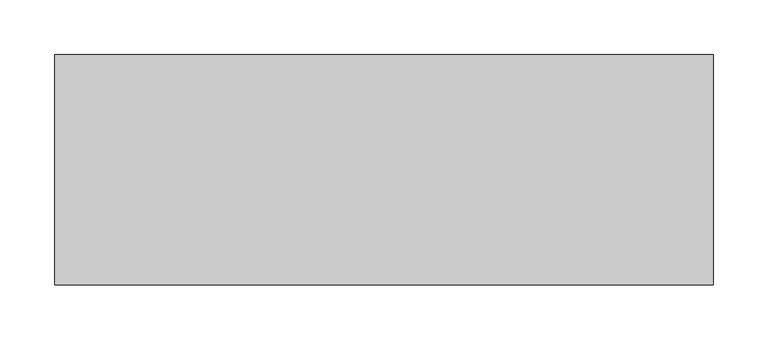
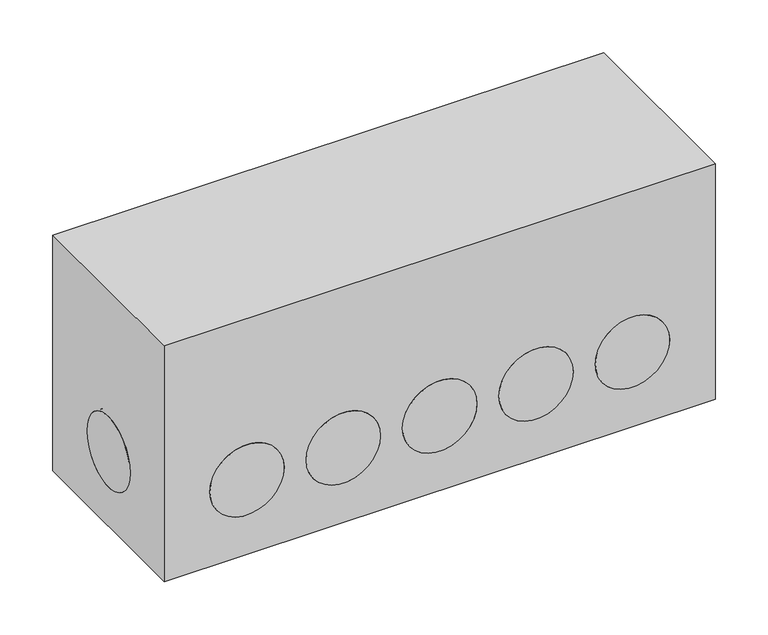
"""IFC4 building model written with IfcOpenShell, lengths in millimetres: duct fitting geometry, NLRS_57_DUF_UN_air distribution manifold 350#12_M&G : 350#12 - DN150 (H=270)."""

from ifc_helpers import new_model, si_unit, point, frame, frame_2d, origin, origin_with_axes, origin_2d, place, context, project, spatial, polyline, circle_curve, trimmed, segment, composite_curve, outline, extrude, source, transform, mapped, element, save
from ifc_brep_helpers import plane_surface, revolved_surface, advanced_brep


def duct_fitting_089aa9a1(model_context):
    return source(origin(), model_context, "Body", "SolidModel", [
        extrude(outline(composite_curve([segment(trimmed(circle_curve(frame_2d((-210.0, 0.0)), 40.5), [point((-250.5, 0.0))], [point((-169.5, 0.0))], False, "CARTESIAN"), True, "CONTINUOUS"), segment(trimmed(circle_curve(frame_2d((-210.0, 0.0)), 40.5), [point((-169.5, 0.0))], [point((-250.5, 0.0))], False, "CARTESIAN"), True, "CONTINUOUS")], self_intersect=False)), origin_with_axes(), (0.0, 0.0, 1.0), 5.0),
        extrude(outline(composite_curve([segment(trimmed(circle_curve(frame_2d((-105.0, 0.0)), 40.5), [point((-145.5, 0.0))], [point((-64.5, 0.0))], False, "CARTESIAN"), True, "CONTINUOUS"), segment(trimmed(circle_curve(frame_2d((-105.0, 0.0)), 40.5), [point((-64.5, 0.0))], [point((-145.5, 0.0))], False, "CARTESIAN"), True, "CONTINUOUS")], self_intersect=False)), origin_with_axes(), (0.0, 0.0, 1.0), 5.0),
        extrude(outline(composite_curve([segment(trimmed(circle_curve(origin_2d(), 40.5), [point((-40.5, 0.0))], [point((40.5, 0.0))], False, "CARTESIAN"), True, "CONTINUOUS"), segment(trimmed(circle_curve(origin_2d(), 40.5), [point((40.5, 0.0))], [point((-40.5, 0.0))], False, "CARTESIAN"), True, "CONTINUOUS")], self_intersect=False)), origin_with_axes(), (0.0, 0.0, 1.0), 5.0),
        extrude(outline(composite_curve([segment(trimmed(circle_curve(frame_2d((105.0, 0.0)), 40.5), [point((64.5, 0.0))], [point((145.5, 0.0))], False, "CARTESIAN"), True, "CONTINUOUS"), segment(trimmed(circle_curve(frame_2d((105.0, 0.0)), 40.5), [point((145.5, 0.0))], [point((64.5, 0.0))], False, "CARTESIAN"), True, "CONTINUOUS")], self_intersect=False)), origin_with_axes(), (0.0, 0.0, 1.0), 5.0),
        extrude(outline(composite_curve([segment(trimmed(circle_curve(frame_2d((210.0, 0.0)), 40.5), [point((169.5, 0.0))], [point((250.5, 0.0))], False, "CARTESIAN"), True, "CONTINUOUS"), segment(trimmed(circle_curve(frame_2d((210.0, 0.0)), 40.5), [point((250.5, 0.0))], [point((169.5, 0.0))], False, "CARTESIAN"), True, "CONTINUOUS")], self_intersect=False)), origin_with_axes(), (0.0, 0.0, 1.0), 5.0),
        extrude(outline(composite_curve([segment(trimmed(circle_curve(frame_2d((0.0, 85.7)), 40.5), [point((-40.5, 85.7))], [point((40.5, 85.7))], False, "CARTESIAN"), True, "CONTINUOUS"), segment(trimmed(circle_curve(frame_2d((0.0, 85.7)), 40.5), [point((40.5, 85.7))], [point((-40.5, 85.7))], False, "CARTESIAN"), True, "CONTINUOUS")], self_intersect=False)), frame((-300.0, 0.0, 0.0), z_axis=(1.0, 0.0, 0.0), x_axis=(0.0, 1.0, 0.0)), (0.0, 0.0, 1.0), 5.0),
        extrude(outline(composite_curve([segment(trimmed(circle_curve(frame_2d((85.7, -210.0)), 40.5), [point((85.7, -169.5))], [point((85.7, -250.5))], False, "CARTESIAN"), True, "CONTINUOUS"), segment(trimmed(circle_curve(frame_2d((85.7, -210.0)), 40.5), [point((85.7, -250.5))], [point((85.7, -169.5))], False, "CARTESIAN"), True, "CONTINUOUS")], self_intersect=False)), frame((0.0, -105.0, 0.0), z_axis=(0.0, 1.0, 0.0), x_axis=(0.0, 0.0, 1.0)), (0.0, 0.0, 1.0), 5.0),
        extrude(outline(composite_curve([segment(trimmed(circle_curve(frame_2d((85.7, -105.0)), 40.5), [point((85.7, -64.5))], [point((85.7, -145.5))], False, "CARTESIAN"), True, "CONTINUOUS"), segment(trimmed(circle_curve(frame_2d((85.7, -105.0)), 40.5), [point((85.7, -145.5))], [point((85.7, -64.5))], False, "CARTESIAN"), True, "CONTINUOUS")], self_intersect=False)), frame((0.0, -105.0, 0.0), z_axis=(0.0, 1.0, 0.0), x_axis=(0.0, 0.0, 1.0)), (0.0, 0.0, 1.0), 5.0),
        extrude(outline(composite_curve([segment(trimmed(circle_curve(frame_2d((85.7, 0.0)), 40.5), [point((85.7, 40.5))], [point((85.7, -40.5))], False, "CARTESIAN"), True, "CONTINUOUS"), segment(trimmed(circle_curve(frame_2d((85.7, 0.0)), 40.5), [point((85.7, -40.5))], [point((85.7, 40.5))], False, "CARTESIAN"), True, "CONTINUOUS")], self_intersect=False)), frame((0.0, -105.0, 0.0), z_axis=(0.0, 1.0, 0.0), x_axis=(0.0, 0.0, 1.0)), (0.0, 0.0, 1.0), 5.0),
        extrude(outline(composite_curve([segment(trimmed(circle_curve(frame_2d((85.7, 105.0)), 40.5), [point((85.7, 145.5))], [point((85.7, 64.5))], False, "CARTESIAN"), True, "CONTINUOUS"), segment(trimmed(circle_curve(frame_2d((85.7, 105.0)), 40.5), [point((85.7, 64.5))], [point((85.7, 145.5))], False, "CARTESIAN"), True, "CONTINUOUS")], self_intersect=False)), frame((0.0, -105.0, 0.0), z_axis=(0.0, 1.0, 0.0), x_axis=(0.0, 0.0, 1.0)), (0.0, 0.0, 1.0), 5.0),
        extrude(outline(composite_curve([segment(trimmed(circle_curve(frame_2d((85.7, 210.0)), 40.5), [point((85.7, 250.5))], [point((85.7, 169.5))], False, "CARTESIAN"), True, "CONTINUOUS"), segment(trimmed(circle_curve(frame_2d((85.7, 210.0)), 40.5), [point((85.7, 169.5))], [point((85.7, 250.5))], False, "CARTESIAN"), True, "CONTINUOUS")], self_intersect=False)), frame((0.0, -105.0, 0.0), z_axis=(0.0, 1.0, 0.0), x_axis=(0.0, 0.0, 1.0)), (0.0, 0.0, 1.0), 5.0),
        extrude(outline(composite_curve([segment(trimmed(circle_curve(frame_2d((0.0, 85.7)), 40.5), [point((-40.5, 85.7))], [point((40.5, 85.7))], False, "CARTESIAN"), True, "CONTINUOUS"), segment(trimmed(circle_curve(frame_2d((0.0, 85.7)), 40.5), [point((40.5, 85.7))], [point((-40.5, 85.7))], False, "CARTESIAN"), True, "CONTINUOUS")], self_intersect=False)), frame((295.0, 0.0, 0.0), z_axis=(1.0, 0.0, 0.0), x_axis=(0.0, 1.0, 0.0)), (0.0, 0.0, 1.0), 5.0),
        advanced_brep(
        [(300.0, 105.0, 271.4), (-300.0, 105.0, 271.4), (-300.0, -105.0, 271.4), (300.0, -105.0, 271.4), (300.0, 105.0, 0.0), (300.0, -105.0, 0.0), (-300.0, -105.0, 0.0), (-300.0, 105.0, 0.0), (-250.5, 0.0, 0.0), (-169.5, 0.0, 0.0), (-145.5, 0.0, 0.0), (-64.5, 0.0, 0.0), (-40.5, 0.0, 0.0), (40.5, 0.0, 0.0), (64.5, 0.0, 0.0), (145.5, 0.0, 0.0), (169.5, 0.0, 0.0), (250.5, 0.0, 0.0), (-300.0, -40.5, 85.7), (-300.0, 40.5, 85.7), (-169.5, -105.0, 85.7), (-250.5, -105.0, 85.7), (-64.5, -105.0, 85.7), (-145.5, -105.0, 85.7), (40.5, -105.0, 85.7), (-40.5, -105.0, 85.7), (145.5, -105.0, 85.7), (64.5, -105.0, 85.7), (250.5, -105.0, 85.7), (169.5, -105.0, 85.7), (300.0, 40.5, 85.7), (300.0, -40.5, 85.7), (-250.5, 0.0, 5.0), (-169.5, 0.0, 5.0), (-145.5, 0.0, 5.0), (-64.5, 0.0, 5.0), (-40.5, 0.0, 5.0), (40.5, 0.0, 5.0), (64.5, 0.0, 5.0), (145.5, 0.0, 5.0), (169.5, 0.0, 5.0), (250.5, 0.0, 5.0), (-250.5, -100.0, 85.7), (-169.5, -100.0, 85.7), (-145.5, -100.0, 85.7), (-64.5, -100.0, 85.7), (-40.5, -100.0, 85.7), (40.5, -100.0, 85.7), (64.5, -100.0, 85.7), (145.5, -100.0, 85.7), (169.5, -100.0, 85.7), (250.5, -100.0, 85.7), (294.0, 40.5, 85.7), (294.0, -40.5, 85.7), (-294.0, -40.5, 85.7), (-294.0, 40.5, 85.7)],
        [
            (0, 1),
            (1, 2),
            (2, 3),
            (3, 0),
            (4, 5),
            (5, 6),
            (6, 7),
            (7, 4),
            (8, 9, circle_curve(frame((-210.0, 0.0, 0.0), z_axis=(0.0, 0.0, 1.0), x_axis=(1.0, 0.0, 0.0)), 40.5)),
            (9, 8, circle_curve(frame((-210.0, 0.0, 0.0), z_axis=(0.0, 0.0, 1.0), x_axis=(1.0, 0.0, 0.0)), 40.5)),
            (10, 11, circle_curve(frame((-105.0, 0.0, 0.0), z_axis=(0.0, 0.0, 1.0), x_axis=(1.0, 0.0, 0.0)), 40.5)),
            (11, 10, circle_curve(frame((-105.0, 0.0, 0.0), z_axis=(0.0, 0.0, 1.0), x_axis=(1.0, 0.0, 0.0)), 40.5)),
            (12, 13, circle_curve(origin_with_axes(), 40.5)),
            (13, 12, circle_curve(origin_with_axes(), 40.5)),
            (14, 15, circle_curve(frame((105.0, 0.0, 0.0), z_axis=(0.0, 0.0, 1.0), x_axis=(1.0, 0.0, 0.0)), 40.5)),
            (15, 14, circle_curve(frame((105.0, 0.0, 0.0), z_axis=(0.0, 0.0, 1.0), x_axis=(1.0, 0.0, 0.0)), 40.5)),
            (16, 17, circle_curve(frame((210.0, 0.0, 0.0), z_axis=(0.0, 0.0, 1.0), x_axis=(1.0, 0.0, 0.0)), 40.5)),
            (17, 16, circle_curve(frame((210.0, 0.0, 0.0), z_axis=(0.0, 0.0, 1.0), x_axis=(1.0, 0.0, 0.0)), 40.5)),
            (0, 4),
            (7, 1),
            (6, 2),
            (18, 19, circle_curve(frame((-300.0, 0.0, 85.7), z_axis=(1.0, 0.0, 0.0), x_axis=(0.0, 1.0, 0.0)), 40.5)),
            (19, 18, circle_curve(frame((-300.0, 0.0, 85.7), z_axis=(1.0, 0.0, 0.0), x_axis=(0.0, 1.0, 0.0)), 40.5)),
            (5, 3),
            (20, 21, circle_curve(frame((-210.0, -105.0, 85.7), z_axis=(0.0, 1.0, 0.0), x_axis=(1.0, 0.0, 0.0)), 40.5)),
            (21, 20, circle_curve(frame((-210.0, -105.0, 85.7), z_axis=(0.0, 1.0, 0.0), x_axis=(1.0, 0.0, 0.0)), 40.5)),
            (22, 23, circle_curve(frame((-105.0, -105.0, 85.7), z_axis=(0.0, 1.0, 0.0), x_axis=(1.0, 0.0, 0.0)), 40.5)),
            (23, 22, circle_curve(frame((-105.0, -105.0, 85.7), z_axis=(0.0, 1.0, 0.0), x_axis=(1.0, 0.0, 0.0)), 40.5)),
            (24, 25, circle_curve(frame((0.0, -105.0, 85.7), z_axis=(0.0, 1.0, 0.0), x_axis=(1.0, 0.0, 0.0)), 40.5)),
            (25, 24, circle_curve(frame((0.0, -105.0, 85.7), z_axis=(0.0, 1.0, 0.0), x_axis=(1.0, 0.0, 0.0)), 40.5)),
            (26, 27, circle_curve(frame((105.0, -105.0, 85.7), z_axis=(0.0, 1.0, 0.0), x_axis=(1.0, 0.0, 0.0)), 40.5)),
            (27, 26, circle_curve(frame((105.0, -105.0, 85.7), z_axis=(0.0, 1.0, 0.0), x_axis=(1.0, 0.0, 0.0)), 40.5)),
            (28, 29, circle_curve(frame((210.0, -105.0, 85.7), z_axis=(0.0, 1.0, 0.0), x_axis=(1.0, 0.0, 0.0)), 40.5)),
            (29, 28, circle_curve(frame((210.0, -105.0, 85.7), z_axis=(0.0, 1.0, 0.0), x_axis=(1.0, 0.0, 0.0)), 40.5)),
            (30, 31, circle_curve(frame((300.0, 0.0, 85.7), z_axis=(-1.0, 0.0, 0.0), x_axis=(0.0, 1.0, 0.0)), 40.5)),
            (31, 30, circle_curve(frame((300.0, 0.0, 85.7), z_axis=(-1.0, 0.0, 0.0), x_axis=(0.0, 1.0, 0.0)), 40.5)),
            (32, 33, circle_curve(frame((-210.0, 0.0, 5.0), z_axis=(0.0, 0.0, -1.0), x_axis=(1.0, 0.0, 0.0)), 40.5)),
            (33, 32, circle_curve(frame((-210.0, 0.0, 5.0), z_axis=(0.0, 0.0, -1.0), x_axis=(1.0, 0.0, 0.0)), 40.5)),
            (34, 35, circle_curve(frame((-105.0, 0.0, 5.0), z_axis=(0.0, 0.0, -1.0), x_axis=(1.0, 0.0, 0.0)), 40.5)),
            (35, 34, circle_curve(frame((-105.0, 0.0, 5.0), z_axis=(0.0, 0.0, -1.0), x_axis=(1.0, 0.0, 0.0)), 40.5)),
            (36, 37, circle_curve(frame((0.0, 0.0, 5.0), z_axis=(0.0, 0.0, -1.0), x_axis=(1.0, 0.0, 0.0)), 40.5)),
            (37, 36, circle_curve(frame((0.0, 0.0, 5.0), z_axis=(0.0, 0.0, -1.0), x_axis=(1.0, 0.0, 0.0)), 40.5)),
            (38, 39, circle_curve(frame((105.0, 0.0, 5.0), z_axis=(0.0, 0.0, -1.0), x_axis=(1.0, 0.0, 0.0)), 40.5)),
            (39, 38, circle_curve(frame((105.0, 0.0, 5.0), z_axis=(0.0, 0.0, -1.0), x_axis=(1.0, 0.0, 0.0)), 40.5)),
            (40, 41, circle_curve(frame((210.0, 0.0, 5.0), z_axis=(0.0, 0.0, -1.0), x_axis=(1.0, 0.0, 0.0)), 40.5)),
            (41, 40, circle_curve(frame((210.0, 0.0, 5.0), z_axis=(0.0, 0.0, -1.0), x_axis=(1.0, 0.0, 0.0)), 40.5)),
            (33, 9),
            (8, 32),
            (35, 11),
            (10, 34),
            (37, 13),
            (12, 36),
            (39, 15),
            (14, 38),
            (41, 17),
            (16, 40),
            (42, 43, circle_curve(frame((-210.0, -100.0, 85.7), z_axis=(0.0, -1.0, 0.0), x_axis=(1.0, 0.0, 0.0)), 40.5)),
            (43, 42, circle_curve(frame((-210.0, -100.0, 85.7), z_axis=(0.0, -1.0, 0.0), x_axis=(1.0, 0.0, 0.0)), 40.5)),
            (44, 45, circle_curve(frame((-105.0, -100.0, 85.7), z_axis=(0.0, -1.0, 0.0), x_axis=(1.0, 0.0, 0.0)), 40.5)),
            (45, 44, circle_curve(frame((-105.0, -100.0, 85.7), z_axis=(0.0, -1.0, 0.0), x_axis=(1.0, 0.0, 0.0)), 40.5)),
            (46, 47, circle_curve(frame((0.0, -100.0, 85.7), z_axis=(0.0, -1.0, 0.0), x_axis=(1.0, 0.0, 0.0)), 40.5)),
            (47, 46, circle_curve(frame((0.0, -100.0, 85.7), z_axis=(0.0, -1.0, 0.0), x_axis=(1.0, 0.0, 0.0)), 40.5)),
            (48, 49, circle_curve(frame((105.0, -100.0, 85.7), z_axis=(0.0, -1.0, 0.0), x_axis=(1.0, 0.0, 0.0)), 40.5)),
            (49, 48, circle_curve(frame((105.0, -100.0, 85.7), z_axis=(0.0, -1.0, 0.0), x_axis=(1.0, 0.0, 0.0)), 40.5)),
            (50, 51, circle_curve(frame((210.0, -100.0, 85.7), z_axis=(0.0, -1.0, 0.0), x_axis=(1.0, 0.0, 0.0)), 40.5)),
            (51, 50, circle_curve(frame((210.0, -100.0, 85.7), z_axis=(0.0, -1.0, 0.0), x_axis=(1.0, 0.0, 0.0)), 40.5)),
            (42, 21),
            (20, 43),
            (44, 23),
            (22, 45),
            (46, 25),
            (24, 47),
            (48, 27),
            (26, 49),
            (50, 29),
            (28, 51),
            (52, 53, circle_curve(frame((294.0, 0.0, 85.7), z_axis=(-1.0, 0.0, 0.0), x_axis=(0.0, 1.0, 0.0)), 40.5)),
            (53, 31),
            (30, 52),
            (53, 52, circle_curve(frame((294.0, 0.0, 85.7), z_axis=(-1.0, 0.0, 0.0), x_axis=(0.0, 1.0, 0.0)), 40.5)),
            (54, 55, circle_curve(frame((-294.0, 0.0, 85.7), z_axis=(-1.0, 0.0, 0.0), x_axis=(0.0, 1.0, 0.0)), 40.5)),
            (55, 54, circle_curve(frame((-294.0, 0.0, 85.7), z_axis=(-1.0, 0.0, 0.0), x_axis=(0.0, 1.0, 0.0)), 40.5)),
            (55, 19),
            (18, 54),
        ],
        [
            plane_surface(frame((-300.0, 105.0, 271.4), z_axis=(0.0, 0.0, 1.0), x_axis=(-1.0, 0.0, 0.0))),
            plane_surface(frame((-300.0, 105.0, 0.0), z_axis=(0.0, 0.0, -1.0), x_axis=(1.0, 0.0, 0.0))),
            plane_surface(frame((300.0, 105.0, 271.4), z_axis=(0.0, 1.0, 0.0), x_axis=(0.0, 0.0, -1.0))),
            plane_surface(frame((-300.0, 105.0, 271.4), z_axis=(-1.0, 0.0, 0.0), x_axis=(0.0, 0.0, -1.0))),
            plane_surface(frame((-300.0, -105.0, 271.4), z_axis=(0.0, -1.0, 0.0), x_axis=(0.0, 0.0, -1.0))),
            plane_surface(frame((300.0, -105.0, 271.4), z_axis=(1.0, 0.0, 0.0), x_axis=(0.0, 0.0, -1.0))),
            plane_surface(frame((-169.5, 0.0, 5.0), z_axis=(0.0, 0.0, -1.0), x_axis=(0.0, 1.0, 0.0))),
            revolved_surface(polyline([(-169.5, 0.0, 5.0), (-169.5, 0.0, 0.0)]), (-210.0, 0.0, 0.0), (0.0, 0.0, 1.0)),
            revolved_surface(polyline([(-64.5, 0.0, 5.0), (-64.5, 0.0, 0.0)]), (-105.0, 0.0, 0.0), (0.0, 0.0, 1.0)),
            revolved_surface(polyline([(40.5, 0.0, 5.0), (40.5, 0.0, 0.0)]), (0.0, 0.0, 0.0), (0.0, 0.0, 1.0)),
            revolved_surface(polyline([(145.5, 0.0, 5.0), (145.5, 0.0, 0.0)]), (105.0, 0.0, 0.0), (0.0, 0.0, 1.0)),
            revolved_surface(polyline([(250.5, 0.0, 5.0), (250.5, 0.0, 0.0)]), (210.0, 0.0, 0.0), (0.0, 0.0, 1.0)),
            plane_surface(frame((-169.5, -100.0, 85.7), z_axis=(0.0, -1.0, 0.0), x_axis=(0.0, 0.0, -1.0))),
            revolved_surface(polyline([(-169.5, -105.0, 85.7), (-169.5, -100.0, 85.7)]), (-210.0, -100.0, 85.7), (0.0, -1.0, 0.0)),
            revolved_surface(polyline([(-64.5, -105.0, 85.7), (-64.5, -100.0, 85.7)]), (-105.0, -105.0, 85.7), (0.0, -1.0, 0.0)),
            revolved_surface(polyline([(40.5, -105.0, 85.7), (40.5, -100.0, 85.7)]), (0.0, -105.0, 85.7), (0.0, -1.0, 0.0)),
            revolved_surface(polyline([(145.5, -105.0, 85.7), (145.5, -100.0, 85.7)]), (105.0, -105.0, 85.7), (0.0, -1.0, 0.0)),
            revolved_surface(polyline([(250.5, -105.0, 85.7), (250.5, -100.0, 85.7)]), (210.0, -105.0, 85.7), (0.0, -1.0, 0.0)),
            revolved_surface(polyline([(300.0, 40.5, 85.7), (294.0, 40.5, 85.7)]), (294.0, 0.0, 85.7), (1.0, 0.0, 0.0)),
            plane_surface(frame((294.0, 40.5, 85.7), z_axis=(1.0, 0.0, 0.0), x_axis=(0.0, 0.0, -1.0))),
            plane_surface(frame((-294.0, 40.5, 85.7), z_axis=(-1.0, 0.0, 0.0), x_axis=(0.0, 0.0, 1.0))),
            revolved_surface(polyline([(-294.0, 40.5, 85.7), (-300.0, 40.5, 85.7)]), (-300.0, 0.0, 85.7), (1.0, 0.0, 0.0)),
        ],
        [
            (0, [[1, 2, 3, 4]]),
            (1, [[5, 6, 7, 8], [9, 10], [11, 12], [13, 14], [15, 16], [17, 18]]),
            (2, [[-1, 19, -8, 20]]),
            (3, [[-2, -20, -7, 21], [22, 23]]),
            (4, [[-3, -21, -6, 24], [25, 26], [27, 28], [29, 30], [31, 32], [33, 34]]),
            (5, [[-4, -24, -5, -19], [35, 36]]),
            (6, [[37, 38]]),
            (6, [[39, 40]]),
            (6, [[41, 42]]),
            (6, [[43, 44]]),
            (6, [[45, 46]]),
            (7, [[-38, 47, -9, 48]]),
            (7, [[-37, -48, -10, -47]]),
            (8, [[-40, 49, -11, 50]]),
            (8, [[-39, -50, -12, -49]]),
            (9, [[-42, 51, -13, 52]]),
            (9, [[-41, -52, -14, -51]]),
            (10, [[-44, 53, -15, 54]]),
            (10, [[-43, -54, -16, -53]]),
            (11, [[-46, 55, -17, 56]]),
            (11, [[-45, -56, -18, -55]]),
            (12, [[57, 58]]),
            (12, [[59, 60]]),
            (12, [[61, 62]]),
            (12, [[63, 64]]),
            (12, [[65, 66]]),
            (13, [[-57, 67, -25, 68]]),
            (13, [[-58, -68, -26, -67]]),
            (14, [[-59, 69, -27, 70]]),
            (14, [[-60, -70, -28, -69]]),
            (15, [[-61, 71, -29, 72]]),
            (15, [[-62, -72, -30, -71]]),
            (16, [[-63, 73, -31, 74]]),
            (16, [[-64, -74, -32, -73]]),
            (17, [[-65, 75, -33, 76]]),
            (17, [[-66, -76, -34, -75]]),
            (18, [[77, 78, -35, 79]]),
            (18, [[80, -79, -36, -78]]),
            (19, [[-77, -80]]),
            (20, [[81, 82]]),
            (21, [[-82, 83, -22, 84]]),
            (21, [[-81, -84, -23, -83]]),
        ],
    ),
    ])


if __name__ == "__main__":
    model = new_model("IFC4")
    model_context = context("Model", 3, world=origin())
    ifc_project = project(units=[si_unit("LENGTHUNIT", "METRE", prefix="MILLI")], contexts=[model_context])
    site = spatial("IfcSite", under=ifc_project)
    building = spatial("IfcBuilding", under=site)
    placement = place(None, origin())
    duct_fitting_shape = duct_fitting_089aa9a1(model_context)
    element("IfcDuctFitting", 1, ObjectType="NLRS_57_DUF_UN_air distribution manifold 350#12_M&G : 350#12 - DN150 (H=270)", at=placement, inside=building, context=model_context, shape_type="MappedRepresentation", body=[
        mapped(duct_fitting_shape, transform((0.0, 0.0, 0.0), x_axis=(1.0, 0.0, 0.0), y_axis=(0.0, 1.0, 0.0), z_axis=(0.0, 0.0, 1.0))),
    ])
    save(model, "model.ifc")
